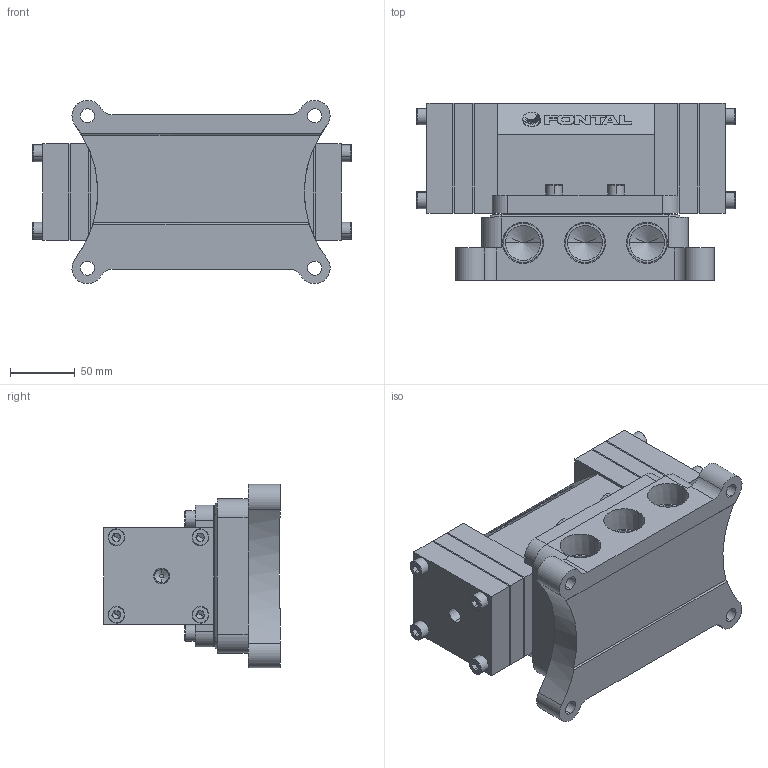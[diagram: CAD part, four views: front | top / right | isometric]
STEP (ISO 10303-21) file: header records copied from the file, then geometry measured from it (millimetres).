
FILE_DESCRIPTION (( 'STEP AP203' ), '1' );
FILE_NAME ('VMD3425-08.STEP', '2016-01-13T18:35:48', ( '' ), ( '' ), 'SwSTEP 2.0', 'SolidWorks 2014', '' );
FILE_SCHEMA (( 'CONFIG_CONTROL_DESIGN' ));
Length unit declared in the file: millimetre
Products named in the file (9): PM25底座-1-08; VMS2425-2; PMS2425-4; PM25-MARK-24; VMS2425-1; VMD3425-08; ISO 4762 M8; PMS2425-2; PMS2425-1
Assembly tree (24 placements, depth 2):
  VMD3425-08
    PMS2425-1
    PMS2425-2  x4
    ISO 4762 M8  x12
    PMS2425-4
    PM25-MARK-24
    VMS2425-1  x2
    VMS2425-2  x2
    PM25底座-1-08
Bounding box: 247 x 137 x 142 mm (x, y, z)
Volume: 2367524.2 mm3; surface area: 337243.6 mm2
Topology: 30 solids, 30 shells, 624 faces, 1444 edges, 883 vertices
Faces by surface type: plane 351, cylinder 141, cone 76, torus 48, bspline 8
Entity records: 9921 total; most frequent: CARTESIAN_POINT 1619, DIRECTION 1478, ORIENTED_EDGE 1388, EDGE_CURVE 694, AXIS2_PLACEMENT_3D 511, VECTOR 456, LINE 456, VERTEX_POINT 454
